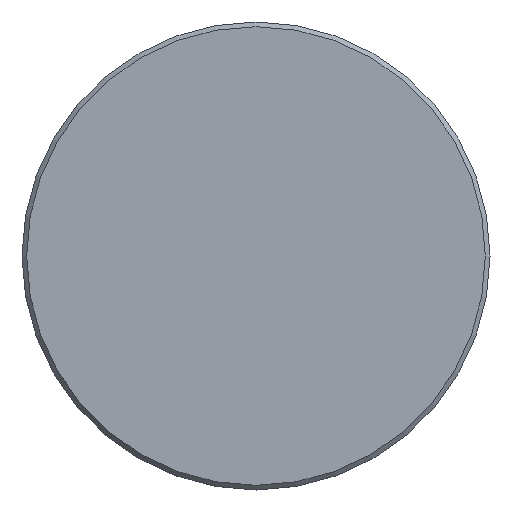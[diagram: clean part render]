
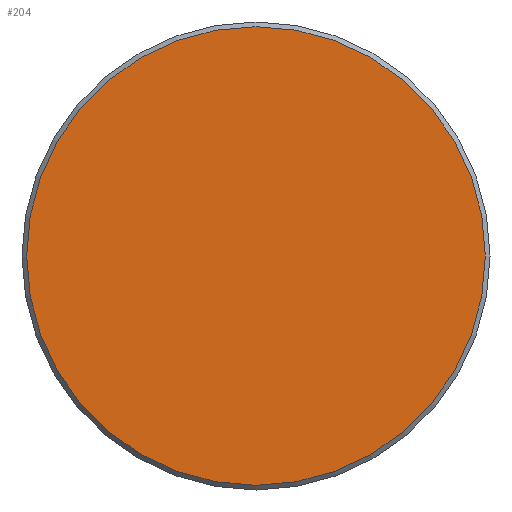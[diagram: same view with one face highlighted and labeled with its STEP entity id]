
A CAD part, front view. The second image highlights one B-rep face of the part: STEP entity #204.
In plain terms, the highlighted planar face has unit normal (0, -1, 0).
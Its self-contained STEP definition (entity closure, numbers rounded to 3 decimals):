
#204 = ADVANCED_FACE( '', ( #398 ), #399, .F. );
#398 = FACE_OUTER_BOUND( '', #594, .T. );
#399 = PLANE( '', #595 );
#594 = EDGE_LOOP( '', ( #912 ) );
#595 = AXIS2_PLACEMENT_3D( '', #913, #914, #915 );
#912 = ORIENTED_EDGE( '', *, *, #1174, .T. );
#913 = CARTESIAN_POINT( '', ( 24.5, 0., 0. ) );
#914 = DIRECTION( '', ( 0., 1., 0. ) );
#915 = DIRECTION( '', ( 0., 0., 1. ) );
#1174 = EDGE_CURVE( '', #1378, #1378, #1379, .T. );
#1378 = VERTEX_POINT( '', #1768 );
#1379 = CIRCLE( '', #1769, 24.5 );
#1768 = CARTESIAN_POINT( '', ( 0., 0., -24.5 ) );
#1769 = AXIS2_PLACEMENT_3D( '', #2046, #2047, #2048 );
#2046 = CARTESIAN_POINT( '', ( 0., 0., 0. ) );
#2047 = DIRECTION( '', ( 0., -1., 0. ) );
#2048 = DIRECTION( '', ( 0., 0., -1. ) );
